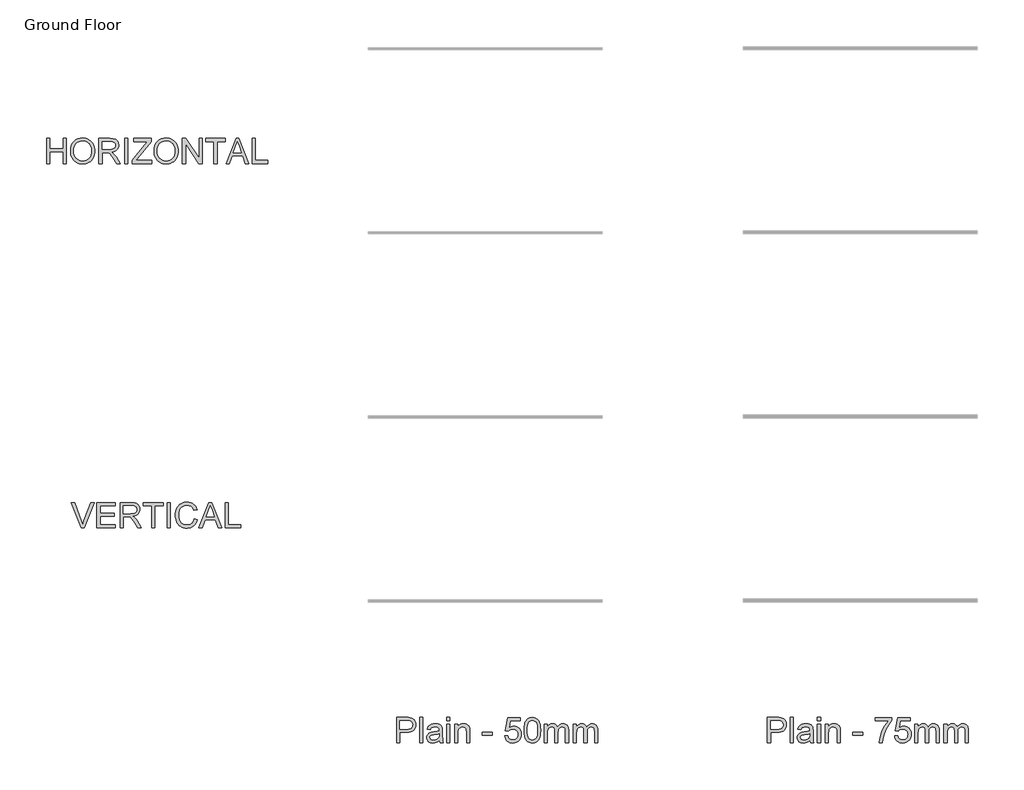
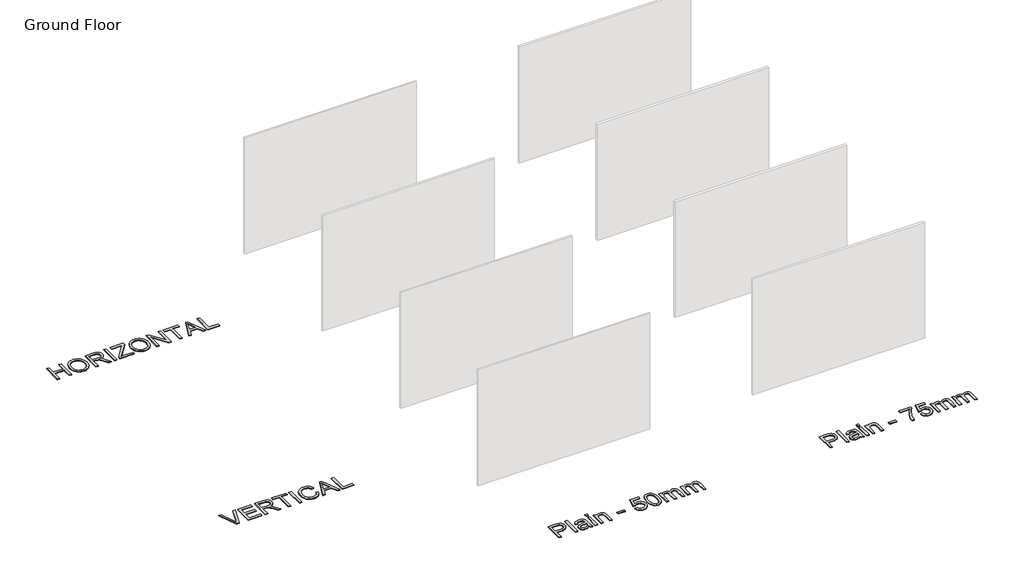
# One storey, part 2 of 2: 4 proxies.
"""IFC4 building model written with IfcOpenShell, lengths in millimetres."""

import ifcopenshell
import ifcopenshell.guid

model = None  # the IFC model being written
_history = None  # IfcOwnerHistory: only IFC2X3 demands one
_inside = {}  # id of a spatial element -> (the spatial element, [elements in it])
_under = {}  # id of a project, library or spatial element -> (it, [spatial elements below it])
_declared = {}  # id of a project -> (the project, [libraries it declares])
_typed = {}  # id of a type object -> (the type object, [elements of that type])
_made_of = {}  # id of a material, layer set ... -> (it, [elements and type objects made of it])


def new_model(schema):
    """Start an empty IFC model of exactly this schema.

    Asked for "IFC4X3", IfcOpenShell would pick the latest addendum, in which some entities
    have other attributes; the version numbers below select the first issue.
    IFC2X3 requires an IfcOwnerHistory on every rooted entity: one is made here for all.
    """
    global model, _history
    if schema == "IFC4X3":
        model = ifcopenshell.file(schema_version=(4, 3, 0, 0))
    else:
        model = ifcopenshell.file(schema=schema)
    _inside.clear()
    _under.clear()
    _declared.clear()
    _typed.clear()
    _made_of.clear()
    _history = None
    if model.schema == "IFC2X3":
        org = make("IfcOrganization", Name="unknown")
        user = make(
            "IfcPersonAndOrganization",
            ThePerson=make("IfcPerson", FamilyName="unknown"),
            TheOrganization=org,
        )
        app = make(
            "IfcApplication",
            ApplicationDeveloper=org,
            Version="unknown",
            ApplicationFullName="unknown",
            ApplicationIdentifier="unknown",
        )
        _history = make(
            "IfcOwnerHistory",
            OwningUser=user,
            OwningApplication=app,
            ChangeAction="ADDED",
            CreationDate=0,
        )
    return model


def make(cls, **values):
    """One entity of the class cls with the attributes given. An attribute that is None is left unset."""
    return model.create_entity(
        cls, **{name: value for name, value in values.items() if value is not None}
    )


def rooted(cls, **values):
    """An entity with a GlobalId (a new one), such as an element, a storey or a relation."""
    return make(cls, GlobalId=ifcopenshell.guid.new(), OwnerHistory=_history, **values)


def si_unit(unit_type, name, prefix=None):
    """IfcSIUnit, for example si_unit("LENGTHUNIT", "METRE", prefix="MILLI")."""
    return make("IfcSIUnit", UnitType=unit_type, Prefix=prefix, Name=name)


def assignment(units):
    """IfcUnitAssignment: the units of a project."""
    return None if units is None else make("IfcUnitAssignment", Units=units)


def point(xyz):
    """IfcCartesianPoint."""
    return None if xyz is None else make("IfcCartesianPoint", Coordinates=xyz)


def direction(xyz):
    """IfcDirection."""
    return None if xyz is None else make("IfcDirection", DirectionRatios=xyz)


def frame(location, z_axis=None, x_axis=None):
    """IfcAxis2Placement3D, a coordinate frame: its origin and axes. An axis left out is left unset."""
    return make(
        "IfcAxis2Placement3D",
        Location=point(location),
        Axis=direction(z_axis),
        RefDirection=direction(x_axis),
    )


def origin():
    """The frame at (0, 0, 0) with its axes left unset."""
    return frame((0.0, 0.0, 0.0))


def origin_with_axes():
    """The frame at (0, 0, 0) with the z axis (0, 0, 1) and the x axis (1, 0, 0) written out."""
    return frame((0.0, 0.0, 0.0), z_axis=(0.0, 0.0, 1.0), x_axis=(1.0, 0.0, 0.0))


def place(relative_to, where):
    """IfcLocalPlacement: puts the frame where relative to a parent placement (None: the world)."""
    return make(
        "IfcLocalPlacement", PlacementRelTo=relative_to, RelativePlacement=where
    )


def context(
    kind, dimensions, precision=None, world=None, true_north=None, identifier=None
):
    """IfcGeometricRepresentationContext, for example the 3D "Model" context."""
    return make(
        "IfcGeometricRepresentationContext",
        ContextIdentifier=identifier,
        ContextType=kind,
        CoordinateSpaceDimension=dimensions,
        Precision=precision,
        WorldCoordinateSystem=world,
        TrueNorth=true_north,
    )


def project(units=None, contexts=None):
    """IfcProject with its units and contexts."""
    return rooted(
        "IfcProject",
        Name="project",
        RepresentationContexts=contexts,
        UnitsInContext=assignment(units),
    )


def spatial(cls, under=None, at=None, **own):
    """A site, building, storey or space (cls), placed at a placement, below another one or the project."""
    s = rooted(cls, ObjectPlacement=at, **own)
    if under is not None:
        _under.setdefault(under.id(), (under, []))[1].append(s)
    return s


def polyline(points):
    """IfcPolyline through the points."""
    return make("IfcPolyline", Points=[point(p) for p in points])


def outline(outer, holes=None, kind="AREA"):
    """IfcArbitraryClosedProfileDef: a profile drawn as a closed curve; with holes, ...WithVoids."""
    if holes is None:
        return make("IfcArbitraryClosedProfileDef", ProfileType=kind, OuterCurve=outer)
    return make(
        "IfcArbitraryProfileDefWithVoids",
        ProfileType=kind,
        OuterCurve=outer,
        InnerCurves=holes,
    )


def extrude(swept, where, along, depth):
    """IfcExtrudedAreaSolid: the profile swept, set in the frame where, extruded along a direction by depth."""
    return make(
        "IfcExtrudedAreaSolid",
        SweptArea=swept,
        Position=where,
        ExtrudedDirection=direction(along),
        Depth=depth,
    )


def shape(context_of_items, identifier, shape_type, items):
    """IfcShapeRepresentation: the items that make up one representation, for example the "Body"."""
    return make(
        "IfcShapeRepresentation",
        ContextOfItems=context_of_items,
        RepresentationIdentifier=identifier,
        RepresentationType=shape_type,
        Items=items,
    )


def made_of(thing, what):
    """Note that an element or type object is made of a material, layer set ...; save() writes the relation."""
    if what is not None:
        _made_of.setdefault(what.id(), (what, []))[1].append(thing)
    return thing


def element(
    cls,
    number,
    at=None,
    inside=None,
    cuts=None,
    type_object=None,
    material=None,
    context=None,
    identifier="Body",
    shape_type=None,
    held_by="IfcProductDefinitionShape",
    body=None,
    shapes=None,
    **own,
):
    """One element of the class cls, such as IfcWall. Its Tag is "e" and its number.

    at: its placement. inside: the storey or other place that contains it. cuts: it is an
    opening in that element (IfcRelVoidsElement). A single representation is given by context,
    identifier, shape_type and body (its items); several are given by shapes. held_by: the class
    of the entity that holds the representations. save() writes the other relations.
    """
    e = rooted(cls, Tag="e%d" % number, ObjectPlacement=at, **own)
    if body is not None:
        shapes = [shape(context, identifier, shape_type, body)]
    if shapes is not None:
        e.Representation = make(held_by, Representations=shapes)
    if inside is not None:
        _inside.setdefault(inside.id(), (inside, []))[1].append(e)
    if cuts is not None:
        rooted(
            "IfcRelVoidsElement", RelatingBuildingElement=cuts, RelatedOpeningElement=e
        )
    if type_object is not None:
        _typed.setdefault(type_object.id(), (type_object, []))[1].append(e)
    return made_of(e, material)


def aggregate(whole, parts):
    """IfcRelAggregates: a whole, such as a stair, and the parts it consists of."""
    return rooted("IfcRelAggregates", RelatingObject=whole, RelatedObjects=parts)


def save(model, path):
    """Write the relations noted so far, then the file.

    IfcRelAggregates (storeys below a building ...), IfcRelContainedInSpatialStructure (elements
    in a storey), IfcRelDefinesByType, IfcRelAssociatesMaterial and IfcRelDeclares: one each for
    every whole, place, type object, material and project.
    """
    for whole, parts in _under.values():
        aggregate(whole, parts)
    for where, things in _inside.values():
        rooted(
            "IfcRelContainedInSpatialStructure",
            RelatedElements=things,
            RelatingStructure=where,
        )
    for kind, things in _typed.values():
        rooted("IfcRelDefinesByType", RelatedObjects=things, RelatingType=kind)
    for what, things in _made_of.values():
        rooted("IfcRelAssociatesMaterial", RelatedObjects=things, RelatingMaterial=what)
    for by, libraries in _declared.values():
        rooted("IfcRelDeclares", RelatingContext=by, RelatedDefinitions=libraries)
    model.write(path)


model = new_model("IFC4")

# Units and contexts
model_context = context("Model", 3, world=origin())
ifc_project = project(units=[si_unit("LENGTHUNIT", "METRE", prefix="MILLI")], contexts=[model_context])

# Site, building, storey
site = spatial("IfcSite", under=ifc_project)
building = spatial("IfcBuilding", under=site)
storey = spatial("IfcBuildingStorey", under=building, Name="Ground Floor", Elevation=0.0)

# Proxies
placement = place(None, origin())
element("IfcBuildingElementProxy", 1, Name="600mm Arial", ObjectType="600mm Arial", at=placement, inside=storey, context=model_context, shape_type="SweptSolid", body=[
    extrude(outline(polyline([(-8281.0770687, -2485.58737), (-8281.0770687, -1882.8495091), (-8057.6991212, -1882.8495091), (-8005.6806071, -1884.2842489), (-7967.6416088, -1888.5884682), (-7927.487289, -1899.3122284), (-7894.4330918, -1916.7682291), (-7867.8168294, -1941.7474165), (-7846.9763144, -1975.0407371), (-7833.5118334, -2014.3121401), (-7829.023673, -2057.2255748), (-7832.054101, -2094.2253065), (-7841.1453848, -2128.2635881), (-7856.2975244, -2159.3404196), (-7877.51052, -2187.4558011), (-7906.6329784, -2210.7611255), (-7945.5135068, -2227.4077858), (-7994.1521051, -2237.395782), (-8052.5487733, -2240.725114), (-8205.7348361, -2240.725114), (-8205.7348361, -2485.58737), (-8281.0770687, -2485.58737)]), holes=[polyline([(-8205.7348361, -2165.3828814), (-8048.1341894, -2165.3828814), (-8011.8978128, -2163.653836), (-7981.326819, -2158.4666999), (-7956.421208, -2149.821473), (-7937.1809796, -2137.7181554), (-7922.8243847, -2122.4786437), (-7912.5696741, -2104.4248348), (-7906.4168478, -2083.5567286), (-7904.3659056, -2059.8743252), (-7909.2035539, -2026.0291816), (-7923.7164986, -1997.4815388), (-7946.102118, -1975.9972303), (-7974.5577903, -1963.3420897), (-8003.6204679, -1959.4793287), (-8049.9000229, -1958.1917417), (-8205.7348361, -1958.1917417), (-8205.7348361, -2165.3828814)])]), origin_with_axes(), (0.0, 0.0, 1.0), 20.0),
    extrude(outline(polyline([(-7734.8458823, -2485.58737), (-7734.8458823, -1882.8495091), (-7659.5036496, -1882.8495091), (-7659.5036496, -2485.58737), (-7734.8458823, -2485.58737)])), origin_with_axes(), (0.0, 0.0, 1.0), 20.0),
    extrude(outline(polyline([(-7263.9569284, -2429.0806956), (-7299.9541817, -2459.9459949), (-7337.0182927, -2480.1427165), (-7375.9953901, -2491.2895409), (-7417.7316024, -2495.0051491), (-7451.2778419, -2492.770266), (-7480.6946059, -2486.0656166), (-7505.9818945, -2474.891201), (-7527.1397078, -2459.2470192), (-7543.8461489, -2440.1263525), (-7555.7793211, -2418.5224823), (-7562.9392244, -2394.4354087), (-7565.3258589, -2367.8651316), (-7561.7206153, -2336.6319502), (-7550.9048847, -2308.2682483), (-7534.2214362, -2283.9880367), (-7513.0130392, -2265.0053257), (-7488.089034, -2250.6579279), (-7460.2587611, -2240.2836556), (-7395.0700715, -2228.9528902), (-7318.0355817, -2217.0335135), (-7264.3983868, -2203.0539977), (-7263.9569284, -2186.2785787), (-7269.1440646, -2152.6541644), (-7275.6279847, -2140.2013588), (-7284.705473, -2130.6548211), (-7300.3956401, -2121.1266774), (-7319.5071097, -2114.3208605), (-7367.9939567, -2108.8762069), (-7412.8755601, -2112.4998446), (-7444.2191061, -2123.3707576), (-7465.59305, -2143.4755086), (-7480.5658472, -2174.8006605), (-7555.9080798, -2165.3828814), (-7542.8298749, -2124.1800979), (-7523.313735, -2091.8064824), (-7495.5386444, -2067.0480241), (-7457.6835871, -2048.6907125), (-7411.385638, -2037.3231589), (-7358.281872, -2033.5339743), (-7307.3486098, -2036.8817005), (-7266.9735608, -2046.924879), (-7236.5313257, -2062.0264349), (-7215.3965051, -2080.5492933), (-7201.3802011, -2103.4499475), (-7192.2935158, -2131.6848907), (-7188.6146958, -2197.6093442), (-7188.6146958, -2291.3456766), (-7184.7887231, -2422.2380904), (-7179.1233403, -2454.5933119), (-7169.7791377, -2485.58737), (-7245.1213703, -2485.58737), (-7257.1878997, -2459.394172), (-7263.9569284, -2429.0806956)]), holes=[polyline([(-7263.9569284, -2278.3962303), (-7314.577491, -2290.9410064), (-7385.5051396, -2301.4992196), (-7450.3259472, -2313.7129019), (-7467.1933367, -2322.0638232), (-7479.6829304, -2333.5785296), (-7487.4084523, -2347.3741044), (-7489.9836263, -2362.5676308), (-7484.3734258, -2384.9716443), (-7467.5428246, -2403.3289559), (-7439.8597044, -2415.5794263), (-7401.6919474, -2419.6629165), (-7361.224928, -2415.156362), (-7325.466798, -2401.6366987), (-7296.4776968, -2381.7158887), (-7276.3177635, -2358.0058941), (-7267.378231, -2333.5785296), (-7264.3983868, -2299.733386), (-7263.9569284, -2278.3962303)])]), origin_with_axes(), (0.0, 0.0, 1.0), 20.0),
    extrude(outline(polyline([(-7085.019126, -2485.58737), (-7085.019126, -2042.9517534), (-7009.6768934, -2042.9517534), (-7009.6768934, -2485.58737), (-7085.019126, -2485.58737)])), origin_with_axes(), (0.0, 0.0, 1.0), 20.0),
    extrude(outline(polyline([(-7085.019126, -1958.1917417), (-7085.019126, -1882.8495091), (-7009.6768934, -1882.8495091), (-7009.6768934, -1958.1917417), (-7085.019126, -1958.1917417)])), origin_with_axes(), (0.0, 0.0, 1.0), 20.0),
    extrude(outline(polyline([(-6896.6635444, -2485.58737), (-6896.6635444, -2042.9517534), (-6821.3213118, -2042.9517534), (-6821.3213118, -2104.7559286), (-6795.1465079, -2073.5963236), (-6763.7109914, -2051.3394629), (-6727.0147624, -2037.9853465), (-6685.0578208, -2033.5339743), (-6647.9201334, -2037.1208238), (-6613.909443, -2047.8813721), (-6585.5457411, -2064.4728501), (-6565.3490196, -2085.5524885), (-6551.6454153, -2111.0651048), (-6542.7610651, -2140.9555169), (-6538.7879395, -2213.796152), (-6538.7879395, -2485.58737), (-6614.1301722, -2485.58737), (-6614.1301722, -2223.949695), (-6616.3006759, -2184.9909918), (-6622.8121872, -2157.2894775), (-6634.8235344, -2137.4422439), (-6653.4935456, -2122.0463824), (-6677.4242694, -2112.1687508), (-6705.2177542, -2108.8762069), (-6728.0954157, -2110.724814), (-6749.3451995, -2116.2706351), (-6768.9671054, -2125.5136702), (-6786.9611335, -2138.4539194), (-6801.9937115, -2156.5629106), (-6812.7312672, -2181.3121718), (-6819.1738007, -2212.701703), (-6821.3213118, -2250.7315043), (-6821.3213118, -2485.58737), (-6896.6635444, -2485.58737)])), origin_with_axes(), (0.0, 0.0, 1.0), 20.0),
    extrude(outline(polyline([(-6237.4190091, -2306.6495676), (-6237.4190091, -2231.3073349), (-6001.9745322, -2231.3073349), (-6001.9745322, -2306.6495676), (-6237.4190091, -2306.6495676)])), origin_with_axes(), (0.0, 0.0, 1.0), 20.0),
    extrude(outline(polyline([(-5700.6056017, -2325.4851257), (-5625.2633691, -2316.0673466), (-5619.6347746, -2340.2877775), (-5611.4310061, -2361.2984379), (-5600.6520636, -2379.099328), (-5587.2979472, -2393.6904476), (-5571.396248, -2405.0534027), (-5552.9745571, -2413.1697993), (-5532.0328745, -2418.0396372), (-5508.5712002, -2419.6629165), (-5479.8764046, -2417.4050407), (-5454.5661234, -2410.6314135), (-5432.6403564, -2399.3420348), (-5414.0991039, -2383.5369045), (-5399.3562329, -2363.9977721), (-5388.8256108, -2341.5063866), (-5382.5072375, -2316.0627481), (-5380.4011131, -2287.6668566), (-5382.3738803, -2260.8298651), (-5388.2921819, -2236.9727177), (-5398.1560179, -2216.0954144), (-5411.9653883, -2198.1979554), (-5429.7662784, -2183.8413605), (-5451.6046733, -2173.5866499), (-5477.4805731, -2167.4338235), (-5507.3939779, -2165.3828814), (-5543.9430541, -2168.6570312), (-5573.5391606, -2178.4794804), (-5597.1755788, -2193.525854), (-5615.84559, -2212.4717768), (-5691.1878227, -2203.0539977), (-5625.2633691, -1892.2672882), (-5333.3122177, -1892.2672882), (-5333.3122177, -1967.6095208), (-5564.3421107, -1967.6095208), (-5596.5685735, -2133.597877), (-5569.9799023, -2114.5415897), (-5542.7474376, -2100.9299559), (-5514.8711794, -2092.7629756), (-5486.3511277, -2090.0406488), (-5449.6594972, -2093.4159661), (-5415.956908, -2103.541918), (-5385.2433599, -2120.4185045), (-5357.518853, -2144.0457257), (-5334.5676151, -2172.9796446), (-5318.1738736, -2205.7763245), (-5308.3376288, -2242.4357653), (-5305.0588805, -2282.9579671), (-5308.0111335, -2321.9902468), (-5316.8678926, -2358.3001997), (-5331.6291576, -2391.8878258), (-5352.2949287, -2422.7531252), (-5383.6016865, -2454.3633857), (-5420.1323686, -2476.9421431), (-5461.8869751, -2490.4893976), (-5508.8655058, -2495.0051491), (-5547.7460342, -2492.1034798), (-5582.8649692, -2483.3984721), (-5614.2223107, -2468.890126), (-5641.8180589, -2448.5784413), (-5664.7784939, -2423.4750936), (-5682.2298961, -2394.5917585), (-5694.1722653, -2361.9284359), (-5700.6056017, -2325.4851257)])), origin_with_axes(), (0.0, 0.0, 1.0), 20.0),
    extrude(outline(polyline([(-5239.134427, -2189.0744819), (-5233.597803, -2092.5974287), (-5226.6770229, -2051.6843523), (-5216.9879309, -2015.6549094), (-5204.5719135, -1984.2147944), (-5189.4703576, -1957.0697016), (-5171.6832632, -1934.2196312), (-5151.2106301, -1915.6645831), (-5127.9834807, -1901.3079882), (-5101.9328369, -1891.0532776), (-5073.0586988, -1884.9004512), (-5041.3610664, -1882.8495091), (-4994.9343586, -1887.7055514), (-4953.3636931, -1902.2736785), (-4918.5988446, -1925.983673), (-4892.5895875, -1958.2653181), (-4872.944689, -1998.8427022), (-4857.272916, -2047.4399138), (-4847.0090083, -2109.1521184), (-4843.5877058, -2189.0744819), (-4849.0691475, -2284.9997121), (-4855.9209497, -2325.7748328), (-4865.5134727, -2361.7582904), (-4877.832921, -2393.212201), (-4892.865499, -2420.3986805), (-4910.6112068, -2443.3177288), (-4931.0700442, -2461.9693459), (-4954.3247848, -2476.4225098), (-4980.4582021, -2486.7461983), (-5009.4702959, -2492.9404114), (-5041.3610664, -2495.0051491), (-5082.8581554, -2491.4182996), (-5119.6463549, -2480.6577513), (-5151.7256649, -2462.723504), (-5179.0960854, -2437.6155578), (-5205.3628598, -2392.2281167), (-5224.1248416, -2335.675457), (-5235.3820306, -2267.9575787), (-5239.134427, -2189.0744819)]), holes=[polyline([(-5163.7921944, -2188.9273291), (-5161.5849024, -2254.4241198), (-5154.9630265, -2307.4405138), (-5143.9265666, -2347.9765112), (-5128.4755228, -2376.0321118), (-5109.7871175, -2395.1205889), (-5089.0385729, -2408.7552153), (-5066.2298892, -2416.9359912), (-5041.3610664, -2419.6629165), (-5016.4922435, -2416.9267941), (-4993.6835598, -2408.7184271), (-4972.9350153, -2395.0378154), (-4954.2466099, -2375.884959), (-4938.7955661, -2347.7833731), (-4927.7591063, -2307.2565728), (-4921.1372303, -2254.3045582), (-4918.9299384, -2188.9273291), (-4921.0636539, -2125.1641823), (-4927.4648007, -2073.0812888), (-4938.1333785, -2032.6786487), (-4953.0693875, -2003.9562619), (-4971.4450932, -1983.9342843), (-4992.432761, -1969.6328718), (-5016.032391, -1961.0520242), (-5042.2439832, -1958.1917417), (-5066.9840473, -1960.7117334), (-5089.4064549, -1968.2717084), (-5109.511206, -1980.8716667), (-5127.2983004, -1998.5116084), (-5143.264379, -2029.781578), (-5154.6687209, -2071.9408546), (-5161.511326, -2124.9894383), (-5163.7921944, -2188.9273291)])]), origin_with_axes(), (0.0, 0.0, 1.0), 20.0),
    extrude(outline(polyline([(-4758.8276941, -2485.58737), (-4758.8276941, -2042.9517534), (-4683.4854615, -2042.9517534), (-4683.4854615, -2115.7923885), (-4660.8239306, -2082.333521), (-4631.6876765, -2056.1219288), (-4597.0699808, -2039.180963), (-4557.9641247, -2033.5339743), (-4516.0623655, -2039.2913276), (-4498.2292857, -2046.4880191), (-4482.4747393, -2056.5633872), (-4457.3851872, -2084.2097192), (-4440.9776502, -2121.0898892), (-4413.5152593, -2082.7841764), (-4382.1901074, -2055.422953), (-4347.0021946, -2039.006219), (-4307.9515208, -2033.5339743), (-4277.7897957, -2035.8102442), (-4251.3160876, -2042.6390537), (-4228.5303966, -2054.0204029), (-4209.4327225, -2069.9542919), (-4194.3357651, -2090.6246615), (-4183.5522241, -2116.2154528), (-4177.0820995, -2146.7266657), (-4174.9253913, -2182.1583004), (-4174.9253913, -2485.58737), (-4250.2676239, -2485.58737), (-4250.2676239, -2214.531916), (-4252.0150634, -2176.9527702), (-4257.2573819, -2151.6240948), (-4267.0798311, -2134.2784587), (-4282.5676631, -2120.6484308), (-4302.4884732, -2111.8192629), (-4325.6098566, -2108.8762069), (-4346.9608079, -2110.7616022), (-4366.4263639, -2116.4177879), (-4384.0065248, -2125.844764), (-4399.7012904, -2139.0425306), (-4412.6093499, -2156.3973637), (-4421.8293924, -2178.2955394), (-4427.3614179, -2204.7370578), (-4429.2054264, -2235.7219189), (-4429.2054264, -2485.58737), (-4504.547659, -2485.58737), (-4504.547659, -2206.1442065), (-4508.9070607, -2163.5434714), (-4514.3563127, -2146.8232348), (-4521.9852656, -2133.1564186), (-4532.0974219, -2122.533826), (-4544.9962844, -2114.9462599), (-4560.6818529, -2110.3937202), (-4579.1541276, -2108.8762069), (-4608.1800171, -2112.9229089), (-4634.9250381, -2125.0630147), (-4656.9979578, -2145.0022189), (-4672.0075432, -2172.4462157), (-4680.6159819, -2210.5220022), (-4683.4854615, -2262.3565753), (-4683.4854615, -2485.58737), (-4758.8276941, -2485.58737)])), origin_with_axes(), (0.0, 0.0, 1.0), 20.0),
    extrude(outline(polyline([(-4061.9120424, -2485.58737), (-4061.9120424, -2042.9517534), (-3986.5698098, -2042.9517534), (-3986.5698098, -2115.7923885), (-3963.9082789, -2082.333521), (-3934.7720249, -2056.1219288), (-3900.1543291, -2039.180963), (-3861.048473, -2033.5339743), (-3819.1467138, -2039.2913276), (-3801.3136341, -2046.4880191), (-3785.5590876, -2056.5633872), (-3760.4695356, -2084.2097192), (-3744.0619986, -2121.0898892), (-3716.5996076, -2082.7841764), (-3685.2744558, -2055.422953), (-3650.0865429, -2039.006219), (-3611.0358691, -2033.5339743), (-3580.874144, -2035.8102442), (-3554.400436, -2042.6390537), (-3531.6147449, -2054.0204029), (-3512.5170708, -2069.9542919), (-3497.4201134, -2090.6246615), (-3486.6365725, -2116.2154528), (-3480.1664479, -2146.7266657), (-3478.0097397, -2182.1583004), (-3478.0097397, -2485.58737), (-3553.3519723, -2485.58737), (-3553.3519723, -2214.531916), (-3555.0994118, -2176.9527702), (-3560.3417302, -2151.6240948), (-3570.1641795, -2134.2784587), (-3585.6520115, -2120.6484308), (-3605.5728215, -2111.8192629), (-3628.6942049, -2108.8762069), (-3650.0451562, -2110.7616022), (-3669.5107123, -2116.4177879), (-3687.0908731, -2125.844764), (-3702.7856387, -2139.0425306), (-3715.6936982, -2156.3973637), (-3724.9137407, -2178.2955394), (-3730.4457662, -2204.7370578), (-3732.2897747, -2235.7219189), (-3732.2897747, -2485.58737), (-3807.6320073, -2485.58737), (-3807.6320073, -2206.1442065), (-3811.991409, -2163.5434714), (-3817.440661, -2146.8232348), (-3825.0696139, -2133.1564186), (-3835.1817703, -2122.533826), (-3848.0806327, -2114.9462599), (-3863.7662013, -2110.3937202), (-3882.238476, -2108.8762069), (-3911.2643654, -2112.9229089), (-3938.0093864, -2125.0630147), (-3960.0823061, -2145.0022189), (-3975.0918916, -2172.4462157), (-3983.7003302, -2210.5220022), (-3986.5698098, -2262.3565753), (-3986.5698098, -2485.58737), (-4061.9120424, -2485.58737)])), origin_with_axes(), (0.0, 0.0, 1.0), 20.0),
])
element("IfcBuildingElementProxy", 2, Name="600mm Arial", ObjectType="600mm Arial", at=placement, inside=storey, context=model_context, shape_type="SweptSolid", body=[
    extrude(outline(polyline([(578.21479, -2485.58737), (578.21479, -1882.8495091), (801.5927374, -1882.8495091), (853.6112516, -1884.2842489), (891.6502499, -1888.5884682), (931.8045696, -1899.3122284), (964.8587669, -1916.7682291), (991.4750292, -1941.7474165), (1012.3155443, -1975.0407371), (1025.7800253, -2014.3121401), (1030.2681856, -2057.2255748), (1027.2377577, -2094.2253065), (1018.1464739, -2128.2635881), (1002.9943342, -2159.3404196), (981.7813387, -2187.4558011), (952.6588802, -2210.7611255), (913.7783519, -2227.4077858), (865.1397536, -2237.395782), (806.7430854, -2240.725114), (653.5570226, -2240.725114), (653.5570226, -2485.58737), (578.21479, -2485.58737)]), holes=[polyline([(653.5570226, -2165.3828814), (811.1576693, -2165.3828814), (847.3940458, -2163.653836), (877.9650396, -2158.4666999), (902.8706507, -2149.821473), (922.1108791, -2137.7181554), (936.4674739, -2122.4786437), (946.7221845, -2104.4248348), (952.8750109, -2083.5567286), (954.925953, -2059.8743252), (950.0883048, -2026.0291816), (935.5753601, -1997.4815388), (913.1897407, -1975.9972303), (884.7340683, -1963.3420897), (855.6713907, -1959.4793287), (809.3918357, -1958.1917417), (653.5570226, -1958.1917417), (653.5570226, -2165.3828814)])]), origin_with_axes(), (0.0, 0.0, 1.0), 20.0),
    extrude(outline(polyline([(1124.4459764, -2485.58737), (1124.4459764, -1882.8495091), (1199.788209, -1882.8495091), (1199.788209, -2485.58737), (1124.4459764, -2485.58737)])), origin_with_axes(), (0.0, 0.0, 1.0), 20.0),
    extrude(outline(polyline([(1595.3349302, -2429.0806956), (1559.337677, -2459.9459949), (1522.273566, -2480.1427165), (1483.2964686, -2491.2895409), (1441.5602562, -2495.0051491), (1408.0140168, -2492.770266), (1378.5972528, -2486.0656166), (1353.3099641, -2474.891201), (1332.1521509, -2459.2470192), (1315.4457098, -2440.1263525), (1303.5125376, -2418.5224823), (1296.3526342, -2394.4354087), (1293.9659998, -2367.8651316), (1297.5712433, -2336.6319502), (1308.386974, -2308.2682483), (1325.0704225, -2283.9880367), (1346.2788195, -2265.0053257), (1371.2028247, -2250.6579279), (1399.0330976, -2240.2836556), (1464.2217871, -2228.9528902), (1541.2562769, -2217.0335135), (1594.8934718, -2203.0539977), (1595.3349302, -2186.2785787), (1590.1477941, -2152.6541644), (1583.6638739, -2140.2013588), (1574.5863857, -2130.6548211), (1558.8962186, -2121.1266774), (1539.784749, -2114.3208605), (1491.297902, -2108.8762069), (1446.4162986, -2112.4998446), (1415.0727526, -2123.3707576), (1393.6988087, -2143.4755086), (1378.7260115, -2174.8006605), (1303.3837789, -2165.3828814), (1316.4619838, -2124.1800979), (1335.9781236, -2091.8064824), (1363.7532143, -2067.0480241), (1401.6082716, -2048.6907125), (1447.9062207, -2037.3231589), (1501.0099867, -2033.5339743), (1551.9432489, -2036.8817005), (1592.3182979, -2046.924879), (1622.760533, -2062.0264349), (1643.8953536, -2080.5492933), (1657.9116576, -2103.4499475), (1666.9983429, -2131.6848907), (1670.6771628, -2197.6093442), (1670.6771628, -2291.3456766), (1674.5031356, -2422.2380904), (1680.1685183, -2454.5933119), (1689.512721, -2485.58737), (1614.1704884, -2485.58737), (1602.1039589, -2459.394172), (1595.3349302, -2429.0806956)]), holes=[polyline([(1595.3349302, -2278.3962303), (1544.7143677, -2290.9410064), (1473.786719, -2301.4992196), (1408.9659115, -2313.7129019), (1392.098522, -2322.0638232), (1379.6089283, -2333.5785296), (1371.8834064, -2347.3741044), (1369.3082324, -2362.5676308), (1374.9184328, -2384.9716443), (1391.7490341, -2403.3289559), (1419.4321542, -2415.5794263), (1457.5999112, -2419.6629165), (1498.0669307, -2415.156362), (1533.8250606, -2401.6366987), (1562.8141619, -2381.7158887), (1582.9740952, -2358.0058941), (1591.9136277, -2333.5785296), (1594.8934718, -2299.733386), (1595.3349302, -2278.3962303)])]), origin_with_axes(), (0.0, 0.0, 1.0), 20.0),
    extrude(outline(polyline([(1774.2727327, -2485.58737), (1774.2727327, -2042.9517534), (1849.6149653, -2042.9517534), (1849.6149653, -2485.58737), (1774.2727327, -2485.58737)])), origin_with_axes(), (0.0, 0.0, 1.0), 20.0),
    extrude(outline(polyline([(1774.2727327, -1958.1917417), (1774.2727327, -1882.8495091), (1849.6149653, -1882.8495091), (1849.6149653, -1958.1917417), (1774.2727327, -1958.1917417)])), origin_with_axes(), (0.0, 0.0, 1.0), 20.0),
    extrude(outline(polyline([(1962.6283142, -2485.58737), (1962.6283142, -2042.9517534), (2037.9705468, -2042.9517534), (2037.9705468, -2104.7559286), (2064.1453508, -2073.5963236), (2095.5808673, -2051.3394629), (2132.2770963, -2037.9853465), (2174.2340378, -2033.5339743), (2211.3717253, -2037.1208238), (2245.3824157, -2047.8813721), (2273.7461175, -2064.4728501), (2293.9428391, -2085.5524885), (2307.6464434, -2111.0651048), (2316.5307936, -2140.9555169), (2320.5039191, -2213.796152), (2320.5039191, -2485.58737), (2245.1616865, -2485.58737), (2245.1616865, -2223.949695), (2242.9911827, -2184.9909918), (2236.4796714, -2157.2894775), (2224.4683243, -2137.4422439), (2205.798313, -2122.0463824), (2181.8675892, -2112.1687508), (2154.0741045, -2108.8762069), (2131.1964429, -2110.724814), (2109.9466592, -2116.2706351), (2090.3247533, -2125.5136702), (2072.3307252, -2138.4539194), (2057.2981471, -2156.5629106), (2046.5605914, -2181.3121718), (2040.118058, -2212.701703), (2037.9705468, -2250.7315043), (2037.9705468, -2485.58737), (1962.6283142, -2485.58737)])), origin_with_axes(), (0.0, 0.0, 1.0), 20.0),
    extrude(outline(polyline([(2621.8728496, -2306.6495676), (2621.8728496, -2231.3073349), (2857.3173265, -2231.3073349), (2857.3173265, -2306.6495676), (2621.8728496, -2306.6495676)])), origin_with_axes(), (0.0, 0.0, 1.0), 20.0),
    extrude(outline(polyline([(3158.6862569, -1967.6095208), (3158.6862569, -1892.2672882), (3554.2329781, -1892.2672882), (3554.2329781, -1953.1885466), (3497.8550624, -2024.5392596), (3442.0289696, -2115.2773537), (3392.7879646, -2217.125484), (3372.8993442, -2269.1118085), (3356.1653119, -2321.8063058), (3338.2126706, -2400.1283825), (3328.2062803, -2485.58737), (3252.8640477, -2485.58737), (3261.0126339, -2407.9274808), (3282.8096421, -2315.6258882), (3298.6791517, -2266.260723), (3317.6664611, -2217.7876716), (3339.7715705, -2170.2067341), (3364.9944798, -2123.5179104), (3420.2503555, -2038.2980462), (3478.8907455, -1967.6095208), (3158.6862569, -1967.6095208)])), origin_with_axes(), (0.0, 0.0, 1.0), 20.0),
    extrude(outline(polyline([(3620.1574317, -2325.4851257), (3695.4996643, -2316.0673466), (3701.1282588, -2340.2877775), (3709.3320273, -2361.2984379), (3720.1109698, -2379.099328), (3733.4650862, -2393.6904476), (3749.3667854, -2405.0534027), (3767.7884763, -2413.1697993), (3788.7301589, -2418.0396372), (3812.1918332, -2419.6629165), (3840.8866288, -2417.4050407), (3866.1969101, -2410.6314135), (3888.122677, -2399.3420348), (3906.6639295, -2383.5369045), (3921.4068005, -2363.9977721), (3931.9374226, -2341.5063866), (3938.2557959, -2316.0627481), (3940.3619203, -2287.6668566), (3938.3891531, -2260.8298651), (3932.4708515, -2236.9727177), (3922.6070155, -2216.0954144), (3908.7976451, -2198.1979554), (3890.9967551, -2183.8413605), (3869.1583601, -2173.5866499), (3843.2824603, -2167.4338235), (3813.3690555, -2165.3828814), (3776.8199793, -2168.6570312), (3747.2238728, -2178.4794804), (3723.5874546, -2193.525854), (3704.9174434, -2212.4717768), (3629.5752108, -2203.0539977), (3695.4996643, -1892.2672882), (3987.4508157, -1892.2672882), (3987.4508157, -1967.6095208), (3756.4209227, -1967.6095208), (3724.1944599, -2133.597877), (3750.7831311, -2114.5415897), (3778.0155958, -2100.9299559), (3805.891854, -2092.7629756), (3834.4119057, -2090.0406488), (3871.1035362, -2093.4159661), (3904.8061254, -2103.541918), (3935.5196735, -2120.4185045), (3963.2441804, -2144.0457257), (3986.1954184, -2172.9796446), (4002.5891598, -2205.7763245), (4012.4254046, -2242.4357653), (4015.7041529, -2282.9579671), (4012.7518999, -2321.9902468), (4003.8951408, -2358.3001997), (3989.1338758, -2391.8878258), (3968.4681047, -2422.7531252), (3937.1613469, -2454.3633857), (3900.6306648, -2476.9421431), (3858.8760584, -2490.4893976), (3811.8975276, -2495.0051491), (3773.0169992, -2492.1034798), (3737.8980642, -2483.3984721), (3706.5407227, -2468.890126), (3678.9449745, -2448.5784413), (3655.9845395, -2423.4750936), (3638.5331373, -2394.5917585), (3626.5907681, -2361.9284359), (3620.1574317, -2325.4851257)])), origin_with_axes(), (0.0, 0.0, 1.0), 20.0),
    extrude(outline(polyline([(4100.4641646, -2485.58737), (4100.4641646, -2042.9517534), (4175.8063972, -2042.9517534), (4175.8063972, -2115.7923885), (4198.4679281, -2082.333521), (4227.6041821, -2056.1219288), (4262.2218779, -2039.180963), (4301.3277339, -2033.5339743), (4343.2294932, -2039.2913276), (4361.0625729, -2046.4880191), (4376.8171194, -2056.5633872), (4401.9066714, -2084.2097192), (4418.3142084, -2121.0898892), (4445.7765994, -2082.7841764), (4477.1017512, -2055.422953), (4512.2896641, -2039.006219), (4551.3403379, -2033.5339743), (4581.502063, -2035.8102442), (4607.975771, -2042.6390537), (4630.7614621, -2054.0204029), (4649.8591362, -2069.9542919), (4664.9560936, -2090.6246615), (4675.7396345, -2116.2154528), (4682.2097591, -2146.7266657), (4684.3664673, -2182.1583004), (4684.3664673, -2485.58737), (4609.0242347, -2485.58737), (4609.0242347, -2214.531916), (4607.2767952, -2176.9527702), (4602.0344768, -2151.6240948), (4592.2120275, -2134.2784587), (4576.7241955, -2120.6484308), (4556.8033855, -2111.8192629), (4533.6820021, -2108.8762069), (4512.3310508, -2110.7616022), (4492.8654947, -2116.4177879), (4475.2853339, -2125.844764), (4459.5905683, -2139.0425306), (4446.6825088, -2156.3973637), (4437.4624663, -2178.2955394), (4431.9304408, -2204.7370578), (4430.0864323, -2235.7219189), (4430.0864323, -2485.58737), (4354.7441996, -2485.58737), (4354.7441996, -2206.1442065), (4350.384798, -2163.5434714), (4344.935546, -2146.8232348), (4337.3065931, -2133.1564186), (4327.1944367, -2122.533826), (4314.2955743, -2114.9462599), (4298.6100057, -2110.3937202), (4280.137731, -2108.8762069), (4251.1118416, -2112.9229089), (4224.3668206, -2125.0630147), (4202.2939008, -2145.0022189), (4187.2843154, -2172.4462157), (4178.6758768, -2210.5220022), (4175.8063972, -2262.3565753), (4175.8063972, -2485.58737), (4100.4641646, -2485.58737)])), origin_with_axes(), (0.0, 0.0, 1.0), 20.0),
    extrude(outline(polyline([(4797.3798162, -2485.58737), (4797.3798162, -2042.9517534), (4872.7220489, -2042.9517534), (4872.7220489, -2115.7923885), (4895.3835798, -2082.333521), (4924.5198338, -2056.1219288), (4959.1375295, -2039.180963), (4998.2433856, -2033.5339743), (5040.1451449, -2039.2913276), (5057.9782246, -2046.4880191), (5073.732771, -2056.5633872), (5098.8223231, -2084.2097192), (5115.2298601, -2121.0898892), (5142.692251, -2082.7841764), (5174.0174029, -2055.422953), (5209.2053157, -2039.006219), (5248.2559895, -2033.5339743), (5278.4177146, -2035.8102442), (5304.8914227, -2042.6390537), (5327.6771138, -2054.0204029), (5346.7747878, -2069.9542919), (5361.8717452, -2090.6246615), (5372.6552862, -2116.2154528), (5379.1254108, -2146.7266657), (5381.282119, -2182.1583004), (5381.282119, -2485.58737), (5305.9398864, -2485.58737), (5305.9398864, -2214.531916), (5304.1924469, -2176.9527702), (5298.9501285, -2151.6240948), (5289.1276792, -2134.2784587), (5273.6398472, -2120.6484308), (5253.7190372, -2111.8192629), (5230.5976538, -2108.8762069), (5209.2467025, -2110.7616022), (5189.7811464, -2116.4177879), (5172.2009856, -2125.844764), (5156.5062199, -2139.0425306), (5143.5981604, -2156.3973637), (5134.3781179, -2178.2955394), (5128.8460924, -2204.7370578), (5127.0020839, -2235.7219189), (5127.0020839, -2485.58737), (5051.6598513, -2485.58737), (5051.6598513, -2206.1442065), (5047.3004497, -2163.5434714), (5041.8511976, -2146.8232348), (5034.2222447, -2133.1564186), (5024.1100884, -2122.533826), (5011.2112259, -2114.9462599), (4995.5256574, -2110.3937202), (4977.0533827, -2108.8762069), (4948.0274933, -2112.9229089), (4921.2824722, -2125.0630147), (4899.2095525, -2145.0022189), (4884.1999671, -2172.4462157), (4875.5915284, -2210.5220022), (4872.7220489, -2262.3565753), (4872.7220489, -2485.58737), (4797.3798162, -2485.58737)])), origin_with_axes(), (0.0, 0.0, 1.0), 20.0),
])
element("IfcBuildingElementProxy", 3, Name="600mm Arial", ObjectType="600mm Arial", at=placement, inside=storey, context=model_context, shape_type="SweptSolid", body=[
    extrude(outline(polyline([(-15825.7847773, 2651.9959966), (-16065.6438382, 3254.7338575), (-15985.0041048, 3254.7338575), (-15824.4604021, 2820.4859504), (-15791.9396338, 2722.6293397), (-15759.8603238, 2820.4859504), (-15598.8751627, 3254.7338575), (-15518.2354294, 3254.7338575), (-15747.9409471, 2651.9959966), (-15825.7847773, 2651.9959966)])), origin_with_axes(), (0.0, 0.0, 1.0), 20.0),
    extrude(outline(polyline([(-15448.1906975, 2651.9959966), (-15448.1906975, 3254.7338575), (-15014.97286, 3254.7338575), (-15014.97286, 3179.3916249), (-15372.8484649, 3179.3916249), (-15372.8484649, 3000.4538225), (-15033.8084181, 3000.4538225), (-15033.8084181, 2925.1115898), (-15372.8484649, 2925.1115898), (-15372.8484649, 2727.3382292), (-15005.5550809, 2727.3382292), (-15005.5550809, 2651.9959966), (-15448.1906975, 2651.9959966)])), origin_with_axes(), (0.0, 0.0, 1.0), 20.0),
    extrude(outline(polyline([(-14892.541732, 2651.9959966), (-14892.541732, 3254.7338575), (-14632.8170434, 3254.7338575), (-14563.0114348, 3250.6687615), (-14512.2253253, 3238.4734733), (-14492.6264121, 3228.7797828), (-14475.106032, 3215.9590952), (-14459.6641853, 3200.0114107), (-14446.3008718, 3180.9367293), (-14435.5173308, 3159.7605219), (-14427.8148016, 3137.5082598), (-14423.193284, 3114.1799427), (-14421.6527781, 3089.7755709), (-14424.2049595, 3058.818301), (-14431.8615035, 3030.3994169), (-14444.6224102, 3004.5189185), (-14462.4876796, 2981.1768059), (-14485.6872379, 2961.1180401), (-14514.4510114, 2945.0875822), (-14548.7790001, 2933.0854321), (-14588.6712039, 2925.1115898), (-14563.8391693, 2908.8879939), (-14545.8497397, 2892.8851271), (-14514.9844403, 2856.2808685), (-14484.7813285, 2815.3356025), (-14384.2759674, 2651.9959966), (-14471.8318823, 2651.9959966), (-14550.2643237, 2776.9287222), (-14606.9181509, 2859.6285947), (-14627.9793951, 2883.7432595), (-14646.7229828, 2898.6976626), (-14682.5546891, 2913.0450604), (-14726.2590701, 2915.6938108), (-14817.1994994, 2915.6938108), (-14817.1994994, 2651.9959966), (-14892.541732, 2651.9959966)]), holes=[polyline([(-14817.1994994, 2991.0360434), (-14648.5623928, 2991.0360434), (-14600.1307281, 2993.7031878), (-14562.5515823, 3001.7046212), (-14534.2614569, 3015.5737725), (-14513.6968533, 3035.8440704), (-14501.1704714, 3060.3634054), (-14496.9950107, 3086.9796677), (-14498.986172, 3106.2474872), (-14504.9596559, 3123.731079), (-14514.9154624, 3139.4304432), (-14528.8535915, 3153.3455796), (-14547.09594, 3164.7407245), (-14569.9644045, 3172.8801136), (-14597.4589851, 3177.7637471), (-14629.5796818, 3179.3916249), (-14817.1994994, 3179.3916249), (-14817.1994994, 2991.0360434)])]), origin_with_axes(), (0.0, 0.0, 1.0), 20.0),
    extrude(outline(polyline([(-14139.1194058, 2651.9959966), (-14139.1194058, 3179.3916249), (-14336.8927664, 3179.3916249), (-14336.8927664, 3254.7338575), (-13866.0038126, 3254.7338575), (-13866.0038126, 3179.3916249), (-14063.7771732, 3179.3916249), (-14063.7771732, 2651.9959966), (-14139.1194058, 2651.9959966)])), origin_with_axes(), (0.0, 0.0, 1.0), 20.0),
    extrude(outline(polyline([(-13771.8260219, 2651.9959966), (-13771.8260219, 3254.7338575), (-13696.4837892, 3254.7338575), (-13696.4837892, 2651.9959966), (-13771.8260219, 2651.9959966)])), origin_with_axes(), (0.0, 0.0, 1.0), 20.0),
    extrude(outline(polyline([(-13121.9992656, 2866.2504706), (-13046.657033, 2846.8263013), (-13061.5654508, 2799.9719307), (-13081.4218815, 2759.0312631), (-13106.226325, 2724.0042987), (-13135.9787814, 2694.8910373), (-13170.0078659, 2672.0041786), (-13207.6421941, 2655.6564225), (-13248.8817657, 2645.8477688), (-13293.7265809, 2642.5782175), (-13339.6704436, 2645.052224), (-13381.1169489, 2652.4742432), (-13418.0660968, 2664.8442753), (-13450.5178873, 2682.1623202), (-13478.9183773, 2704.1708606), (-13503.7136238, 2730.612379), (-13524.9036267, 2761.4868754), (-13542.4883861, 2796.7943499), (-13556.2977565, 2835.0080922), (-13566.1615925, 2874.6013919), (-13572.0798941, 2915.5742491), (-13574.0526613, 2957.9266638), (-13571.8223767, 3003.3692873), (-13565.1315229, 3045.8136725), (-13553.9800999, 3085.2598194), (-13538.3681077, 3121.7077281), (-13518.6450343, 3154.5549917), (-13495.1603674, 3183.1992036), (-13467.9141071, 3207.6403636), (-13436.9062534, 3227.8784719), (-13403.1898686, 3243.7479814), (-13367.8180148, 3255.0833454), (-13330.7906919, 3261.8845638), (-13292.1079001, 3264.1516366), (-13249.0151229, 3261.2177777), (-13209.4999981, 3252.416201), (-13173.5625257, 3237.7469064), (-13141.2027057, 3217.209894), (-13112.953967, 3191.3477898), (-13089.3497385, 3160.7032196), (-13070.3900202, 3125.2761834), (-13056.074812, 3085.0666813), (-13131.4170447, 3067.11404), (-13143.281239, 3096.7423362), (-13157.5366663, 3122.057216), (-13174.1833266, 3143.0586794), (-13193.2212198, 3159.7467264), (-13214.7607107, 3172.4616478), (-13238.9121636, 3181.5437346), (-13265.6755788, 3186.9929866), (-13295.0509561, 3188.809404), (-13328.8501144, 3186.7952501), (-13359.7613991, 3180.7527883), (-13387.78481, 3170.6820187), (-13412.9203474, 3156.5829412), (-13434.8507128, 3139.0901523), (-13453.2586081, 3118.8382485), (-13468.1440334, 3095.8272297), (-13479.5069885, 3070.0570959), (-13493.9095686, 3014.9115849), (-13498.7104286, 2958.0738166), (-13493.0266518, 2888.4705431), (-13485.9219308, 2857.2005735), (-13475.9753213, 2828.2850487), (-13463.0258751, 2802.2987843), (-13446.9126437, 2779.8165958), (-13427.6356272, 2760.8384834), (-13405.1948255, 2745.364447), (-13380.680089, 2733.3576984), (-13355.1812682, 2724.7814494), (-13328.6983631, 2719.6357), (-13301.2313736, 2717.9204502), (-13268.4760805, 2720.2565008), (-13238.3419466, 2727.2646528), (-13210.8289718, 2738.9449062), (-13185.9371563, 2755.2972609), (-13164.2551112, 2776.2481405), (-13146.3714478, 2801.7239687), (-13132.2861659, 2831.7247454), (-13121.9992656, 2866.2504706)])), origin_with_axes(), (0.0, 0.0, 1.0), 20.0),
    extrude(outline(polyline([(-13013.2533478, 2651.9959966), (-12772.658523, 3254.7338575), (-12708.499903, 3254.7338575), (-12467.9050782, 2651.9959966), (-12547.5147419, 2651.9959966), (-12616.5294042, 2840.3515782), (-12864.7761745, 2840.3515782), (-12933.643684, 2651.9959966), (-13013.2533478, 2651.9959966)]), holes=[polyline([(-12837.1114485, 2915.6938108), (-12644.0469774, 2915.6938108), (-12698.3463599, 3063.8766784), (-12740.579213, 3179.3916249), (-12778.1031765, 3076.8261247), (-12837.1114485, 2915.6938108)])]), origin_with_axes(), (0.0, 0.0, 1.0), 20.0),
    extrude(outline(polyline([(-12387.4124976, 2651.9959966), (-12387.4124976, 3254.7338575), (-12312.070265, 3254.7338575), (-12312.070265, 2727.3382292), (-12010.7013345, 2727.3382292), (-12010.7013345, 2651.9959966), (-12387.4124976, 2651.9959966)])), origin_with_axes(), (0.0, 0.0, 1.0), 20.0),
])
element("IfcBuildingElementProxy", 4, Name="600mm Arial", ObjectType="600mm Arial", at=placement, inside=storey, context=model_context, shape_type="SweptSolid", body=[
    extrude(outline(polyline([(-16653.6664193, 11356.7959966), (-16653.6664193, 11959.5338575), (-16578.3241867, 11959.5338575), (-16578.3241867, 11714.6716015), (-16258.1196981, 11714.6716015), (-16258.1196981, 11959.5338575), (-16182.7774654, 11959.5338575), (-16182.7774654, 11356.7959966), (-16258.1196981, 11356.7959966), (-16258.1196981, 11639.3293689), (-16578.3241867, 11639.3293689), (-16578.3241867, 11356.7959966), (-16653.6664193, 11356.7959966)])), origin_with_axes(), (0.0, 0.0, 1.0), 20.0),
    extrude(outline(polyline([(-16079.1818956, 11650.218676), (-16074.1603064, 11720.9163984), (-16059.0955387, 11783.5023228), (-16033.9875925, 11837.9764493), (-16017.6674275, 11862.1715882), (-15998.8364679, 11884.3387777), (-15955.7482892, 11921.3569035), (-15906.8291809, 11947.7984219), (-15852.0791429, 11963.6633329), (-15791.4981754, 11968.9516366), (-15750.9483825, 11966.4684331), (-15712.4403346, 11959.0188227), (-15675.9740318, 11946.6028054), (-15641.5494741, 11929.2203811), (-15610.1323518, 11907.3957818), (-15582.6883549, 11881.6532391), (-15559.2174836, 11851.9927533), (-15539.7197379, 11818.4143242), (-15524.3974528, 11781.681307), (-15513.4529634, 11742.5570568), (-15506.8862698, 11701.0415736), (-15504.6973719, 11657.1348575), (-15507.0012329, 11612.6487272), (-15513.9128159, 11570.572224), (-15525.4321209, 11530.9053479), (-15541.5591479, 11493.6480988), (-15561.9122192, 11459.7845612), (-15586.1096575, 11430.2988193), (-15614.1514626, 11405.1908731), (-15646.0376345, 11384.4607227), (-15680.512776, 11368.2371267), (-15716.3214897, 11356.6488438), (-15753.4637756, 11349.6958741), (-15791.9396338, 11347.3782175), (-15833.1975995, 11349.9395959), (-15872.2114851, 11357.6237311), (-15908.9812905, 11370.4306231), (-15943.5070158, 11388.3602718), (-15974.88735, 11410.7183001), (-16002.2209822, 11436.8103306), (-16025.5079125, 11466.6363633), (-16044.7481409, 11500.1963983), (-16059.8129086, 11536.1430678), (-16070.5734569, 11573.1290039), (-16077.0297859, 11611.1542066), (-16079.1818956, 11650.218676)]), holes=[polyline([(-16003.839663, 11649.482912), (-16000.0734711, 11599.5337341), (-15988.7748953, 11555.1947566), (-15969.9439357, 11516.4659796), (-15943.5805922, 11483.347403), (-15911.5334719, 11456.8231111), (-15875.6511818, 11437.8771884), (-15835.9337219, 11426.5096347), (-15792.3810922, 11422.7204502), (-15748.0835014, 11426.5464229), (-15707.896992, 11438.0243412), (-15671.8215638, 11457.1542049), (-15639.857217, 11483.9360142), (-15613.6870115, 11517.7535666), (-15594.9940077, 11557.9906598), (-15583.7782053, 11604.6472938), (-15580.0396046, 11657.7234687), (-15581.6398912, 11692.2032087), (-15586.4407513, 11724.4204744), (-15594.4421847, 11754.3752659), (-15605.6441914, 11782.067583), (-15619.9226114, 11807.1341425), (-15637.1532843, 11829.2116607), (-15657.3362103, 11848.3001378), (-15680.4713892, 11864.3995736), (-15705.8414513, 11877.1788744), (-15732.7290266, 11886.3069464), (-15761.1341152, 11891.7837896), (-15791.056717, 11893.609404), (-15833.096432, 11890.0915324), (-15872.1011205, 11879.5379177), (-15908.0707826, 11861.9485598), (-15941.0054182, 11837.3234587), (-15968.4954003, 11804.4761951), (-15988.1311018, 11762.2203494), (-15999.9125227, 11710.5559217), (-16003.839663, 11649.482912)])]), origin_with_axes(), (0.0, 0.0, 1.0), 20.0),
    extrude(outline(polyline([(-15401.1018021, 11356.7959966), (-15401.1018021, 11959.5338575), (-15141.3771135, 11959.5338575), (-15071.5715049, 11955.4687615), (-15020.7853955, 11943.2734733), (-15001.1864822, 11933.5797828), (-14983.6661022, 11920.7590952), (-14968.2242554, 11904.8114107), (-14954.8609419, 11885.7367293), (-14944.077401, 11864.5605219), (-14936.3748717, 11842.3082598), (-14931.7533541, 11818.9799427), (-14930.2128483, 11794.5755709), (-14932.7650296, 11763.618301), (-14940.4215736, 11735.1994169), (-14953.1824803, 11709.3189185), (-14971.0477497, 11685.9768059), (-14994.2473081, 11665.9180401), (-15023.0110816, 11649.8875822), (-15057.3390702, 11637.8854321), (-15097.2312741, 11629.9115898), (-15072.3992394, 11613.6879939), (-15054.4098098, 11597.6851271), (-15023.5445104, 11561.0808685), (-14993.3413986, 11520.1356025), (-14892.8360376, 11356.7959966), (-14980.3919524, 11356.7959966), (-15058.8243938, 11481.7287222), (-15115.478221, 11564.4285947), (-15136.5394653, 11588.5432595), (-15155.2830529, 11603.4976626), (-15191.1147592, 11617.8450604), (-15234.8191403, 11620.4938108), (-15325.7595695, 11620.4938108), (-15325.7595695, 11356.7959966), (-15401.1018021, 11356.7959966)]), holes=[polyline([(-15325.7595695, 11695.8360434), (-15157.1224629, 11695.8360434), (-15108.6907982, 11698.5031878), (-15071.1116524, 11706.5046212), (-15042.821527, 11720.3737725), (-15022.2569235, 11740.6440704), (-15009.7305415, 11765.1634054), (-15005.5550809, 11791.7796677), (-15007.5462422, 11811.0474872), (-15013.5197261, 11828.531079), (-15023.4755326, 11844.2304432), (-15037.4136617, 11858.1455796), (-15055.6560101, 11869.5407245), (-15078.5244746, 11877.6801136), (-15106.0190552, 11882.5637471), (-15138.1397519, 11884.1916249), (-15325.7595695, 11884.1916249), (-15325.7595695, 11695.8360434)])]), origin_with_axes(), (0.0, 0.0, 1.0), 20.0),
    extrude(outline(polyline([(-14788.9461621, 11356.7959966), (-14788.9461621, 11959.5338575), (-14713.6039295, 11959.5338575), (-14713.6039295, 11356.7959966), (-14788.9461621, 11356.7959966)])), origin_with_axes(), (0.0, 0.0, 1.0), 20.0),
    extrude(outline(polyline([(-14610.0083597, 11356.7959966), (-14610.0083597, 11434.9341324), (-14301.7232477, 11812.3810594), (-14243.1564341, 11884.1916249), (-14572.3372434, 11884.1916249), (-14572.3372434, 11959.5338575), (-14148.5371849, 11959.5338575), (-14148.5371849, 11884.1916249), (-14485.9585509, 11471.1337207), (-14517.7435553, 11432.1382292), (-14139.1194058, 11432.1382292), (-14139.1194058, 11356.7959966), (-14610.0083597, 11356.7959966)])), origin_with_axes(), (0.0, 0.0, 1.0), 20.0),
    extrude(outline(polyline([(-14082.6127314, 11650.218676), (-14077.5911421, 11720.9163984), (-14062.5263744, 11783.5023228), (-14037.4184283, 11837.9764493), (-14021.0982633, 11862.1715882), (-14002.2673036, 11884.3387777), (-13959.179125, 11921.3569035), (-13910.2600166, 11947.7984219), (-13855.5099787, 11963.6633329), (-13794.9290112, 11968.9516366), (-13754.3792182, 11966.4684331), (-13715.8711704, 11959.0188227), (-13679.4048676, 11946.6028054), (-13644.9803099, 11929.2203811), (-13613.5631875, 11907.3957818), (-13586.1191907, 11881.6532391), (-13562.6483194, 11851.9927533), (-13543.1505737, 11818.4143242), (-13527.8282886, 11781.681307), (-13516.8837992, 11742.5570568), (-13510.3171056, 11701.0415736), (-13508.1282077, 11657.1348575), (-13510.4320687, 11612.6487272), (-13517.3436517, 11570.572224), (-13528.8629567, 11530.9053479), (-13544.9899836, 11493.6480988), (-13565.343055, 11459.7845612), (-13589.5404932, 11430.2988193), (-13617.5822983, 11405.1908731), (-13649.4684703, 11384.4607227), (-13683.9436117, 11368.2371267), (-13719.7523254, 11356.6488438), (-13756.8946114, 11349.6958741), (-13795.3704695, 11347.3782175), (-13836.6284353, 11349.9395959), (-13875.6423209, 11357.6237311), (-13912.4121263, 11370.4306231), (-13946.9378516, 11388.3602718), (-13978.3181857, 11410.7183001), (-14005.651818, 11436.8103306), (-14028.9387483, 11466.6363633), (-14048.1789766, 11500.1963983), (-14063.2437443, 11536.1430678), (-14074.0042927, 11573.1290039), (-14080.4606217, 11611.1542066), (-14082.6127314, 11650.218676)]), holes=[polyline([(-14007.2704988, 11649.482912), (-14003.5043068, 11599.5337341), (-13992.2057311, 11555.1947566), (-13973.3747714, 11516.4659796), (-13947.011428, 11483.347403), (-13914.9643077, 11456.8231111), (-13879.0820176, 11437.8771884), (-13839.3645576, 11426.5096347), (-13795.8119279, 11422.7204502), (-13751.5143372, 11426.5464229), (-13711.3278278, 11438.0243412), (-13675.2523996, 11457.1542049), (-13643.2880527, 11483.9360142), (-13617.1178473, 11517.7535666), (-13598.4248434, 11557.9906598), (-13587.2090411, 11604.6472938), (-13583.4704403, 11657.7234687), (-13585.070727, 11692.2032087), (-13589.871587, 11724.4204744), (-13597.8730204, 11754.3752659), (-13609.0750272, 11782.067583), (-13623.3534471, 11807.1341425), (-13640.5841201, 11829.2116607), (-13660.767046, 11848.3001378), (-13683.902225, 11864.3995736), (-13709.2722871, 11877.1788744), (-13736.1598624, 11886.3069464), (-13764.564951, 11891.7837896), (-13794.4875528, 11893.609404), (-13836.5272678, 11890.0915324), (-13875.5319563, 11879.5379177), (-13911.5016184, 11861.9485598), (-13944.436254, 11837.3234587), (-13971.9262361, 11804.4761951), (-13991.5619376, 11762.2203494), (-14003.3433585, 11710.5559217), (-14007.2704988, 11649.482912)])]), origin_with_axes(), (0.0, 0.0, 1.0), 20.0),
    extrude(outline(polyline([(-13404.5326379, 11356.7959966), (-13404.5326379, 11959.5338575), (-13323.8929045, 11959.5338575), (-13008.9859167, 11482.0230278), (-13008.9859167, 11959.5338575), (-12933.643684, 11959.5338575), (-12933.643684, 11356.7959966), (-13014.2834174, 11356.7959966), (-13329.1904053, 11834.4539792), (-13329.1904053, 11356.7959966), (-13404.5326379, 11356.7959966)])), origin_with_axes(), (0.0, 0.0, 1.0), 20.0),
    extrude(outline(polyline([(-12651.1103118, 11356.7959966), (-12651.1103118, 11884.1916249), (-12848.8836724, 11884.1916249), (-12848.8836724, 11959.5338575), (-12377.9947185, 11959.5338575), (-12377.9947185, 11884.1916249), (-12575.7680791, 11884.1916249), (-12575.7680791, 11356.7959966), (-12651.1103118, 11356.7959966)])), origin_with_axes(), (0.0, 0.0, 1.0), 20.0),
    extrude(outline(polyline([(-12363.4265915, 11356.7959966), (-12122.8317667, 11959.5338575), (-12058.6731467, 11959.5338575), (-11818.0783219, 11356.7959966), (-11897.6879856, 11356.7959966), (-11966.7026479, 11545.1515782), (-12214.9494183, 11545.1515782), (-12283.8169278, 11356.7959966), (-12363.4265915, 11356.7959966)]), holes=[polyline([(-12187.2846922, 11620.4938108), (-11994.2202212, 11620.4938108), (-12048.5196037, 11768.6766784), (-12090.7524567, 11884.1916249), (-12128.2764202, 11781.6261247), (-12187.2846922, 11620.4938108)])]), origin_with_axes(), (0.0, 0.0, 1.0), 20.0),
    extrude(outline(polyline([(-11737.5857413, 11356.7959966), (-11737.5857413, 11959.5338575), (-11662.2435087, 11959.5338575), (-11662.2435087, 11432.1382292), (-11360.8745783, 11432.1382292), (-11360.8745783, 11356.7959966), (-11737.5857413, 11356.7959966)])), origin_with_axes(), (0.0, 0.0, 1.0), 20.0),
])

save(model, "model.ifc")
